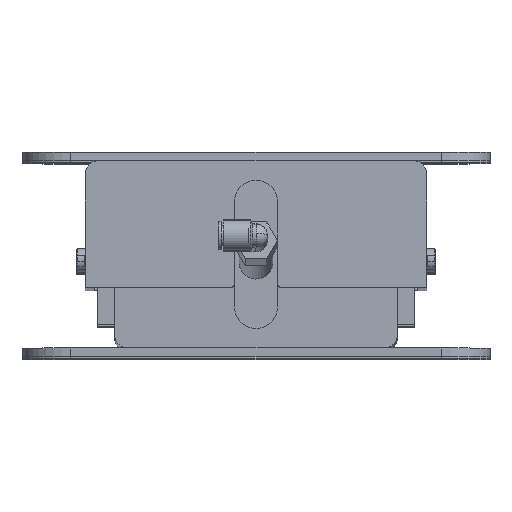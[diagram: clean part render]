
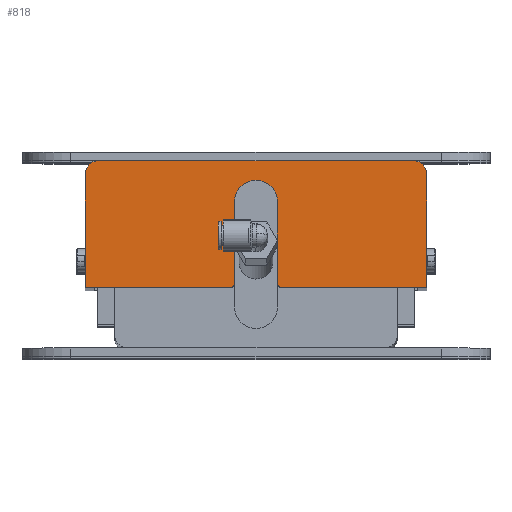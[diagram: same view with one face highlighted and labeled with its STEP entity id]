
A CAD part, top view. The second image highlights one B-rep face of the part: STEP entity #818.
In plain terms, the highlighted planar face has unit normal (0, 0, 1).
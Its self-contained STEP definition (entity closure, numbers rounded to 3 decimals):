
#170 = DIRECTION ( 'NONE',  ( 0., 0., 1. ) ) ;
#320 = ORIENTED_EDGE ( 'NONE', *, *, #4526, .T. ) ;
#475 = CARTESIAN_POINT ( 'NONE',  ( -13., -30.5, 1000. ) ) ;
#533 = VECTOR ( 'NONE', #3458, 1000. ) ;
#630 = EDGE_CURVE ( 'NONE', #732, #1230, #1960, .T. ) ;
#668 = EDGE_CURVE ( 'NONE', #3853, #8519, #1730, .T. ) ;
#732 = VERTEX_POINT ( 'NONE', #5870 ) ;
#763 = LINE ( 'NONE', #8649, #4295 ) ;
#818 = ADVANCED_FACE ( 'NONE', ( #7201 ), #5611, .T. ) ;
#846 = DIRECTION ( 'NONE',  ( 1., 0., 0. ) ) ;
#972 = ORIENTED_EDGE ( 'NONE', *, *, #5355, .F. ) ;
#1072 = VERTEX_POINT ( 'NONE', #5179 ) ;
#1135 = LINE ( 'NONE', #5612, #6744 ) ;
#1193 = DIRECTION ( 'NONE',  ( 1., 0., 0. ) ) ;
#1230 = VERTEX_POINT ( 'NONE', #3019 ) ;
#1367 = ORIENTED_EDGE ( 'NONE', *, *, #7096, .T. ) ;
#1393 = DIRECTION ( 'NONE',  ( -1., 0., 0. ) ) ;
#1413 = AXIS2_PLACEMENT_3D ( 'NONE', #5841, #1646, #6550 ) ;
#1425 = CARTESIAN_POINT ( 'NONE',  ( 11., -32.5, 1000. ) ) ;
#1441 = EDGE_CURVE ( 'NONE', #5265, #1072, #3434, .T. ) ;
#1506 = VERTEX_POINT ( 'NONE', #5553 ) ;
#1555 = CARTESIAN_POINT ( 'NONE',  ( -87.5, -32.5, 1000. ) ) ;
#1557 = VECTOR ( 'NONE', #7745, 1000. ) ;
#1562 = CARTESIAN_POINT ( 'NONE',  ( 11., 11.5, 1000. ) ) ;
#1646 = DIRECTION ( 'NONE',  ( 0., 0., 1. ) ) ;
#1670 = ORIENTED_EDGE ( 'NONE', *, *, #630, .T. ) ;
#1692 = DIRECTION ( 'NONE',  ( 0., 1., 0. ) ) ;
#1730 = CIRCLE ( 'NONE', #1413, 11. ) ;
#1745 = CARTESIAN_POINT ( 'NONE',  ( 80.75, 25.75, 1000. ) ) ;
#1748 = ORIENTED_EDGE ( 'NONE', *, *, #3311, .T. ) ;
#1889 = CARTESIAN_POINT ( 'NONE',  ( -87.5, 25.75, 1000. ) ) ;
#1941 = EDGE_CURVE ( 'NONE', #1230, #8246, #7011, .T. ) ;
#1960 = CIRCLE ( 'NONE', #5831, 2. ) ;
#2412 = LINE ( 'NONE', #4185, #533 ) ;
#2452 = DIRECTION ( 'NONE',  ( 1., 0., 0. ) ) ;
#2677 = CARTESIAN_POINT ( 'NONE',  ( 87.5, -32.5, 1000. ) ) ;
#2803 = VERTEX_POINT ( 'NONE', #7472 ) ;
#2811 = AXIS2_PLACEMENT_3D ( 'NONE', #7697, #3535, #8402 ) ;
#2873 = CARTESIAN_POINT ( 'NONE',  ( -87.5, -32.5, 1000. ) ) ;
#2957 = CARTESIAN_POINT ( 'NONE',  ( -87.5, 32.5, 1000. ) ) ;
#3019 = CARTESIAN_POINT ( 'NONE',  ( 13., -32.5, 1000. ) ) ;
#3060 = CIRCLE ( 'NONE', #8201, 6.75 ) ;
#3133 = CARTESIAN_POINT ( 'NONE',  ( -13., -32.5, 1000. ) ) ;
#3197 = EDGE_CURVE ( 'NONE', #7991, #1506, #8498, .T. ) ;
#3311 = EDGE_CURVE ( 'NONE', #4760, #2803, #7626, .T. ) ;
#3434 = CIRCLE ( 'NONE', #8088, 2. ) ;
#3455 = LINE ( 'NONE', #1425, #1557 ) ;
#3458 = DIRECTION ( 'NONE',  ( 0., -1., 0. ) ) ;
#3535 = DIRECTION ( 'NONE',  ( 0., 0., 1. ) ) ;
#3702 = ORIENTED_EDGE ( 'NONE', *, *, #1441, .T. ) ;
#3735 = AXIS2_PLACEMENT_3D ( 'NONE', #1745, #6648, #2452 ) ;
#3830 = DIRECTION ( 'NONE',  ( 0., 0., 1. ) ) ;
#3853 = VERTEX_POINT ( 'NONE', #1562 ) ;
#4129 = ORIENTED_EDGE ( 'NONE', *, *, #6337, .F. ) ;
#4185 = CARTESIAN_POINT ( 'NONE',  ( -11., 11.5, 1000. ) ) ;
#4295 = VECTOR ( 'NONE', #1692, 1000. ) ;
#4380 = VERTEX_POINT ( 'NONE', #8385 ) ;
#4381 = CARTESIAN_POINT ( 'NONE',  ( 13., -30.5, 1000. ) ) ;
#4526 = EDGE_CURVE ( 'NONE', #2803, #5265, #4564, .T. ) ;
#4564 = LINE ( 'NONE', #1555, #8269 ) ;
#4760 = VERTEX_POINT ( 'NONE', #1889 ) ;
#4951 = EDGE_CURVE ( 'NONE', #1506, #4380, #1135, .T. ) ;
#5081 = DIRECTION ( 'NONE',  ( 1., 0., 0. ) ) ;
#5179 = CARTESIAN_POINT ( 'NONE',  ( -11., -30.5, 1000. ) ) ;
#5265 = VERTEX_POINT ( 'NONE', #3133 ) ;
#5355 = EDGE_CURVE ( 'NONE', #732, #3853, #3455, .T. ) ;
#5404 = DIRECTION ( 'NONE',  ( 0., 0., 1. ) ) ;
#5438 = ORIENTED_EDGE ( 'NONE', *, *, #6048, .T. ) ;
#5553 = CARTESIAN_POINT ( 'NONE',  ( 80.75, 32.5, 1000. ) ) ;
#5611 = PLANE ( 'NONE',  #2811 ) ;
#5612 = CARTESIAN_POINT ( 'NONE',  ( -87.5, 32.5, 1000. ) ) ;
#5831 = AXIS2_PLACEMENT_3D ( 'NONE', #4381, #170, #5081 ) ;
#5841 = CARTESIAN_POINT ( 'NONE',  ( 0., 11.5, 1000. ) ) ;
#5870 = CARTESIAN_POINT ( 'NONE',  ( 11., -30.5, 1000. ) ) ;
#6048 = EDGE_CURVE ( 'NONE', #8246, #7991, #763, .T. ) ;
#6337 = EDGE_CURVE ( 'NONE', #8519, #1072, #2412, .T. ) ;
#6380 = DIRECTION ( 'NONE',  ( 1., 0., 0. ) ) ;
#6483 = CARTESIAN_POINT ( 'NONE',  ( 87.5, 25.75, 1000. ) ) ;
#6550 = DIRECTION ( 'NONE',  ( 1., 0., 0. ) ) ;
#6648 = DIRECTION ( 'NONE',  ( 0., 0., 1. ) ) ;
#6744 = VECTOR ( 'NONE', #1393, 1000. ) ;
#6806 = VECTOR ( 'NONE', #6380, 1000. ) ;
#6951 = ORIENTED_EDGE ( 'NONE', *, *, #4951, .T. ) ;
#7011 = LINE ( 'NONE', #2873, #6806 ) ;
#7096 = EDGE_CURVE ( 'NONE', #4380, #4760, #3060, .T. ) ;
#7201 = FACE_OUTER_BOUND ( 'NONE', #8882, .T. ) ;
#7472 = CARTESIAN_POINT ( 'NONE',  ( -87.5, -32.5, 1000. ) ) ;
#7626 = LINE ( 'NONE', #2957, #7837 ) ;
#7697 = CARTESIAN_POINT ( 'NONE',  ( 0., 0., 1000. ) ) ;
#7745 = DIRECTION ( 'NONE',  ( 0., 1., 0. ) ) ;
#7821 = DIRECTION ( 'NONE',  ( 0., -1., 0. ) ) ;
#7837 = VECTOR ( 'NONE', #7821, 1000. ) ;
#7913 = ORIENTED_EDGE ( 'NONE', *, *, #1941, .T. ) ;
#7991 = VERTEX_POINT ( 'NONE', #6483 ) ;
#7999 = CARTESIAN_POINT ( 'NONE',  ( -80.75, 25.75, 1000. ) ) ;
#8088 = AXIS2_PLACEMENT_3D ( 'NONE', #475, #5404, #1193 ) ;
#8152 = ORIENTED_EDGE ( 'NONE', *, *, #3197, .T. ) ;
#8201 = AXIS2_PLACEMENT_3D ( 'NONE', #7999, #3830, #8702 ) ;
#8246 = VERTEX_POINT ( 'NONE', #2677 ) ;
#8269 = VECTOR ( 'NONE', #846, 1000. ) ;
#8385 = CARTESIAN_POINT ( 'NONE',  ( -80.75, 32.5, 1000. ) ) ;
#8402 = DIRECTION ( 'NONE',  ( 1., 0., 0. ) ) ;
#8498 = CIRCLE ( 'NONE', #3735, 6.75 ) ;
#8519 = VERTEX_POINT ( 'NONE', #8591 ) ;
#8591 = CARTESIAN_POINT ( 'NONE',  ( -11., 11.5, 1000. ) ) ;
#8649 = CARTESIAN_POINT ( 'NONE',  ( 87.5, 32.5, 1000. ) ) ;
#8702 = DIRECTION ( 'NONE',  ( 1., 0., 0. ) ) ;
#8853 = ORIENTED_EDGE ( 'NONE', *, *, #668, .F. ) ;
#8882 = EDGE_LOOP ( 'NONE', ( #972, #1670, #7913, #5438, #8152, #6951, #1367, #1748, #320, #3702, #4129, #8853 ) ) ;
